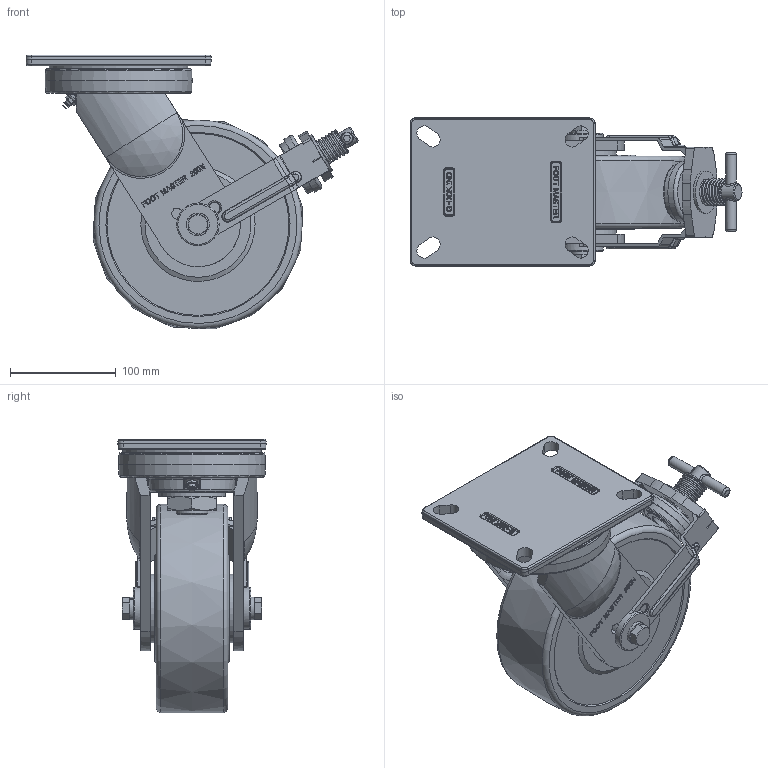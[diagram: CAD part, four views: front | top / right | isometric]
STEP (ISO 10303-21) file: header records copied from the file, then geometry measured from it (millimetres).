
FILE_DESCRIPTION(/* description */ (''),/* implementation_level */ '2;1');
FILE_NAME(/* name */ 'Y:\1.기술연구소\2.연구개발 진행중\133.고하중캐스터 브레이크 타입 변경건_2025.11.03\1.도면\4.홈페이지용 도면\01. 3D\GXT-200 SERIES\GXT-200-STEP\GXT-200N-BSF-MCD.stp',/* time_stamp */ '2026-07-21T18:59:15+09:00',/* author */ ('장용하'),/* organization */ (''),/* preprocessor_version */ 'ST-DEVELOPER v18.1',/* originating_system */ 'Autodesk Inventor 2021',/* authorisation */ '');
FILE_SCHEMA (('CONFIG_CONTROL_DESIGN'));
Products named in the file (1): GXT-200N-BSF-MCD
Bounding box: 313.74 x 140 x 258.76 mm (x, y, z)
Volume: 3254870.1 mm3; surface area: 276373.5 mm2
Topology: 1 solids, 1 shells, 1777 faces, 4751 edges, 3098 vertices
Faces by surface type: plane 845, bspline 640, cylinder 193, torus 51, cone 44, sphere 4
Full cylindrical faces by diameter (mm): 10 x2, 12 x2, 13 x2, 16 x1, 20 x1, 30 x1, 31.606 x1, 40 x3, 54 x2, 58 x1, 62.5 x1, 65 x2, 131.086 x1
Entity records: 60362 total; most frequent: CARTESIAN_POINT 19951, ORIENTED_EDGE 9504, DIRECTION 6390, EDGE_CURVE 4752, VERTEX_POINT 3100, LINE 2726, VECTOR 2726, EDGE_LOOP 1926
